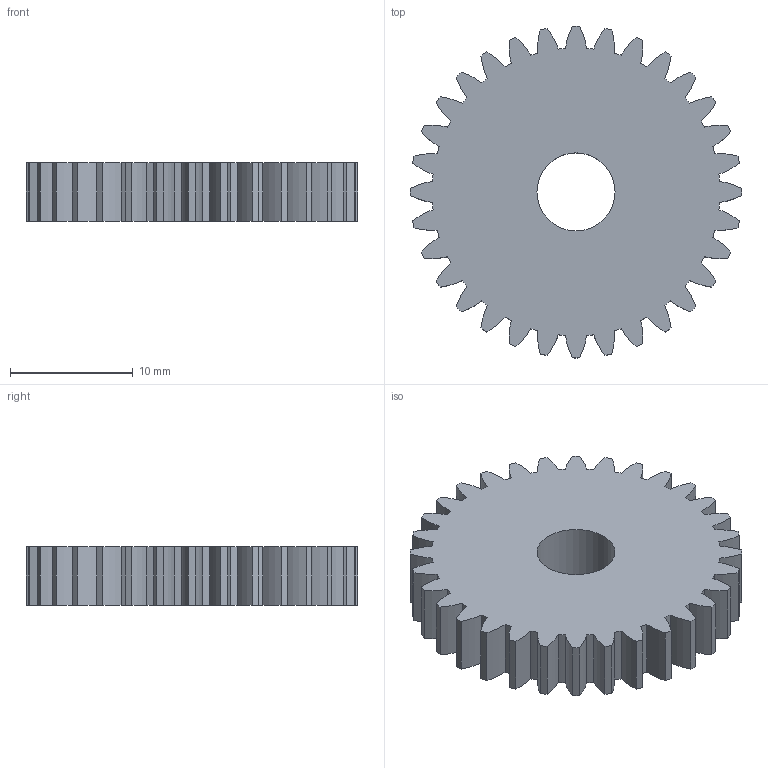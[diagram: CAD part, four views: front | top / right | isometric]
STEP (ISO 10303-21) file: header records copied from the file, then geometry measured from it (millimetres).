
FILE_DESCRIPTION((''),'2;1');
FILE_NAME('C:\Documents and Settings\Powderly\Desktop\GP2Gear.stp','2005-08-09T02:12:13',('Powderly'),(''),'Autodesk Inventor 10','Autodesk Inventor 10','');
FILE_SCHEMA(('AUTOMOTIVE_DESIGN { 1 0 10303 214 1 1 1 1 }'));
Length unit declared in the file: inch
Products named in the file (1): 32, 0
Bounding box: 26.99 x 26.99 x 4.76 mm (x, y, z)
Volume: 2243 mm3; surface area: 1795.9 mm2
Topology: 1 solids, 1 shells, 131 faces, 388 edges, 259 vertices
Faces by surface type: cylinder 128, plane 2, bspline 1
Entity records: 4576 total; most frequent: DIRECTION 906, CARTESIAN_POINT 793, ORIENTED_EDGE 772, AXIS2_PLACEMENT_3D 389, EDGE_CURVE 386, VERTEX_POINT 258, CIRCLE 258, EDGE_LOOP 134
